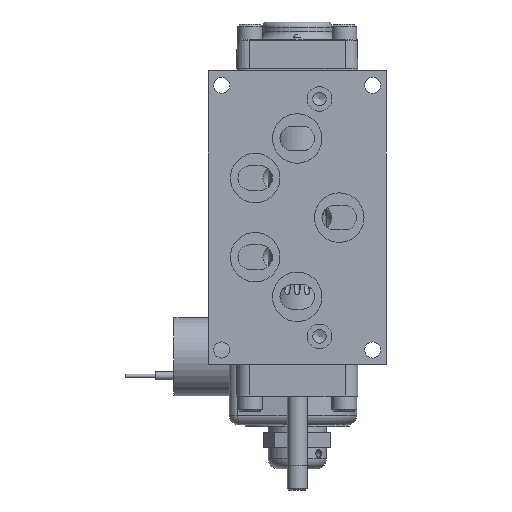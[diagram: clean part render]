
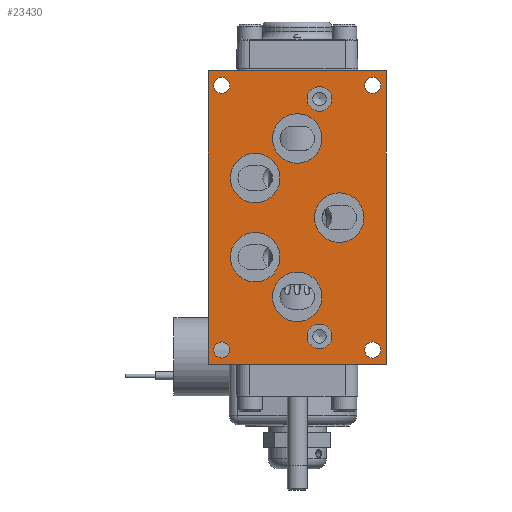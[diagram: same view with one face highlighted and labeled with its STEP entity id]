
A CAD part, front view. The second image highlights one B-rep face of the part: STEP entity #23430.
In plain terms, the highlighted planar face has unit normal (0, -1, 0).
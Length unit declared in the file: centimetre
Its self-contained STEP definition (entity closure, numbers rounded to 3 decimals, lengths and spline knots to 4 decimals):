
#2994=LINE('',#41168,#4510);
#2998=LINE('',#41177,#4514);
#3000=LINE('',#41180,#4516);
#3001=LINE('',#41181,#4517);
#4510=VECTOR('',#31062,1.);
#4514=VECTOR('',#31072,1.);
#4516=VECTOR('',#31076,1.);
#4517=VECTOR('',#31077,1.);
#5777=FACE_BOUND('',#8286,.T.);
#5778=FACE_BOUND('',#8287,.T.);
#5779=FACE_BOUND('',#8288,.T.);
#5780=FACE_BOUND('',#8289,.T.);
#5781=FACE_BOUND('',#8290,.T.);
#5782=FACE_BOUND('',#8291,.T.);
#5783=FACE_BOUND('',#8292,.T.);
#5784=FACE_BOUND('',#8293,.T.);
#5785=FACE_BOUND('',#8294,.T.);
#5786=FACE_BOUND('',#8295,.T.);
#5787=FACE_BOUND('',#8296,.T.);
#6799=FACE_OUTER_BOUND('',#8285,.T.);
#8285=EDGE_LOOP('',(#19927,#19928,#19929,#19930));
#8286=EDGE_LOOP('',(#19931,#19932));
#8287=EDGE_LOOP('',(#19933,#19934));
#8288=EDGE_LOOP('',(#19935,#19936));
#8289=EDGE_LOOP('',(#19937,#19938));
#8290=EDGE_LOOP('',(#19939,#19940));
#8291=EDGE_LOOP('',(#19941,#19942));
#8292=EDGE_LOOP('',(#19943,#19944));
#8293=EDGE_LOOP('',(#19945));
#8294=EDGE_LOOP('',(#19946));
#8295=EDGE_LOOP('',(#19947));
#8296=EDGE_LOOP('',(#19948));
#9517=CIRCLE('',#25499,0.3962);
#9518=CIRCLE('',#25500,0.3962);
#9524=CIRCLE('',#25510,0.3962);
#9525=CIRCLE('',#25511,0.3962);
#9528=CIRCLE('',#25517,0.7938);
#9529=CIRCLE('',#25518,0.7938);
#9532=CIRCLE('',#25523,0.7938);
#9533=CIRCLE('',#25524,0.7938);
#9536=CIRCLE('',#25529,0.7938);
#9537=CIRCLE('',#25530,0.7938);
#9540=CIRCLE('',#25535,0.7938);
#9541=CIRCLE('',#25536,0.7938);
#9544=CIRCLE('',#25541,0.7938);
#9545=CIRCLE('',#25542,0.7938);
#9562=CIRCLE('',#25567,0.258);
#9566=CIRCLE('',#25573,0.258);
#9570=CIRCLE('',#25579,0.258);
#9574=CIRCLE('',#25585,0.258);
#11464=VERTEX_POINT('',#40944);
#11465=VERTEX_POINT('',#40945);
#11472=VERTEX_POINT('',#40966);
#11473=VERTEX_POINT('',#40967);
#11476=VERTEX_POINT('',#40979);
#11477=VERTEX_POINT('',#40980);
#11480=VERTEX_POINT('',#40990);
#11481=VERTEX_POINT('',#40991);
#11484=VERTEX_POINT('',#41001);
#11485=VERTEX_POINT('',#41002);
#11488=VERTEX_POINT('',#41012);
#11489=VERTEX_POINT('',#41013);
#11492=VERTEX_POINT('',#41023);
#11493=VERTEX_POINT('',#41024);
#11510=VERTEX_POINT('',#41076);
#11516=VERTEX_POINT('',#41091);
#11522=VERTEX_POINT('',#41106);
#11528=VERTEX_POINT('',#41121);
#11541=VERTEX_POINT('',#41164);
#11542=VERTEX_POINT('',#41166);
#11543=VERTEX_POINT('',#41174);
#11544=VERTEX_POINT('',#41176);
#14352=EDGE_CURVE('',#11464,#11465,#9517,.T.);
#14353=EDGE_CURVE('',#11465,#11464,#9518,.T.);
#14362=EDGE_CURVE('',#11472,#11473,#9524,.T.);
#14363=EDGE_CURVE('',#11473,#11472,#9525,.T.);
#14368=EDGE_CURVE('',#11476,#11477,#9528,.T.);
#14369=EDGE_CURVE('',#11477,#11476,#9529,.T.);
#14373=EDGE_CURVE('',#11480,#11481,#9532,.T.);
#14374=EDGE_CURVE('',#11481,#11480,#9533,.T.);
#14378=EDGE_CURVE('',#11484,#11485,#9536,.T.);
#14379=EDGE_CURVE('',#11485,#11484,#9537,.T.);
#14383=EDGE_CURVE('',#11488,#11489,#9540,.T.);
#14384=EDGE_CURVE('',#11489,#11488,#9541,.T.);
#14388=EDGE_CURVE('',#11492,#11493,#9544,.T.);
#14389=EDGE_CURVE('',#11493,#11492,#9545,.T.);
#14416=EDGE_CURVE('',#11510,#11510,#9562,.T.);
#14423=EDGE_CURVE('',#11516,#11516,#9566,.T.);
#14430=EDGE_CURVE('',#11522,#11522,#9570,.T.);
#14437=EDGE_CURVE('',#11528,#11528,#9574,.T.);
#14460=EDGE_CURVE('',#11541,#11542,#2994,.T.);
#14464=EDGE_CURVE('',#11544,#11543,#2998,.T.);
#14466=EDGE_CURVE('',#11543,#11541,#3000,.T.);
#14467=EDGE_CURVE('',#11542,#11544,#3001,.T.);
#19927=ORIENTED_EDGE('',*,*,#14466,.T.);
#19928=ORIENTED_EDGE('',*,*,#14460,.T.);
#19929=ORIENTED_EDGE('',*,*,#14467,.T.);
#19930=ORIENTED_EDGE('',*,*,#14464,.T.);
#19931=ORIENTED_EDGE('',*,*,#14352,.T.);
#19932=ORIENTED_EDGE('',*,*,#14353,.T.);
#19933=ORIENTED_EDGE('',*,*,#14362,.T.);
#19934=ORIENTED_EDGE('',*,*,#14363,.T.);
#19935=ORIENTED_EDGE('',*,*,#14368,.T.);
#19936=ORIENTED_EDGE('',*,*,#14369,.T.);
#19937=ORIENTED_EDGE('',*,*,#14373,.T.);
#19938=ORIENTED_EDGE('',*,*,#14374,.T.);
#19939=ORIENTED_EDGE('',*,*,#14378,.T.);
#19940=ORIENTED_EDGE('',*,*,#14379,.T.);
#19941=ORIENTED_EDGE('',*,*,#14383,.T.);
#19942=ORIENTED_EDGE('',*,*,#14384,.T.);
#19943=ORIENTED_EDGE('',*,*,#14388,.T.);
#19944=ORIENTED_EDGE('',*,*,#14389,.T.);
#19945=ORIENTED_EDGE('',*,*,#14416,.T.);
#19946=ORIENTED_EDGE('',*,*,#14423,.T.);
#19947=ORIENTED_EDGE('',*,*,#14430,.T.);
#19948=ORIENTED_EDGE('',*,*,#14437,.T.);
#22373=PLANE('',#25597);
#23430=ADVANCED_FACE('',(#6799,#5777,#5778,#5779,#5780,#5781,#5782,#5783,
#5784,#5785,#5786,#5787),#22373,.T.);
#25499=AXIS2_PLACEMENT_3D('',#40946,#30822,#30823);
#25500=AXIS2_PLACEMENT_3D('',#40947,#30824,#30825);
#25510=AXIS2_PLACEMENT_3D('',#40968,#30847,#30848);
#25511=AXIS2_PLACEMENT_3D('',#40969,#30849,#30850);
#25517=AXIS2_PLACEMENT_3D('',#40981,#30863,#30864);
#25518=AXIS2_PLACEMENT_3D('',#40982,#30865,#30866);
#25523=AXIS2_PLACEMENT_3D('',#40992,#30876,#30877);
#25524=AXIS2_PLACEMENT_3D('',#40993,#30878,#30879);
#25529=AXIS2_PLACEMENT_3D('',#41003,#30889,#30890);
#25530=AXIS2_PLACEMENT_3D('',#41004,#30891,#30892);
#25535=AXIS2_PLACEMENT_3D('',#41014,#30902,#30903);
#25536=AXIS2_PLACEMENT_3D('',#41015,#30904,#30905);
#25541=AXIS2_PLACEMENT_3D('',#41025,#30915,#30916);
#25542=AXIS2_PLACEMENT_3D('',#41026,#30917,#30918);
#25567=AXIS2_PLACEMENT_3D('',#41078,#30977,#30978);
#25573=AXIS2_PLACEMENT_3D('',#41093,#30992,#30993);
#25579=AXIS2_PLACEMENT_3D('',#41108,#31007,#31008);
#25585=AXIS2_PLACEMENT_3D('',#41123,#31022,#31023);
#25597=AXIS2_PLACEMENT_3D('',#41179,#31074,#31075);
#30822=DIRECTION('center_axis',(0.,1.,0.));
#30823=DIRECTION('ref_axis',(1.,0.,0.));
#30824=DIRECTION('center_axis',(0.,1.,0.));
#30825=DIRECTION('ref_axis',(1.,0.,0.));
#30847=DIRECTION('center_axis',(0.,1.,0.));
#30848=DIRECTION('ref_axis',(1.,0.,0.));
#30849=DIRECTION('center_axis',(0.,1.,0.));
#30850=DIRECTION('ref_axis',(1.,0.,0.));
#30863=DIRECTION('center_axis',(0.,1.,0.));
#30864=DIRECTION('ref_axis',(1.,0.,0.));
#30865=DIRECTION('center_axis',(0.,1.,0.));
#30866=DIRECTION('ref_axis',(1.,0.,0.));
#30876=DIRECTION('center_axis',(0.,1.,0.));
#30877=DIRECTION('ref_axis',(1.,0.,0.));
#30878=DIRECTION('center_axis',(0.,1.,0.));
#30879=DIRECTION('ref_axis',(1.,0.,0.));
#30889=DIRECTION('center_axis',(0.,1.,0.));
#30890=DIRECTION('ref_axis',(1.,0.,0.));
#30891=DIRECTION('center_axis',(0.,1.,0.));
#30892=DIRECTION('ref_axis',(1.,0.,0.));
#30902=DIRECTION('center_axis',(0.,1.,0.));
#30903=DIRECTION('ref_axis',(1.,0.,0.));
#30904=DIRECTION('center_axis',(0.,1.,0.));
#30905=DIRECTION('ref_axis',(1.,0.,0.));
#30915=DIRECTION('center_axis',(0.,1.,0.));
#30916=DIRECTION('ref_axis',(1.,0.,0.));
#30917=DIRECTION('center_axis',(0.,1.,0.));
#30918=DIRECTION('ref_axis',(1.,0.,0.));
#30977=DIRECTION('center_axis',(0.,1.,0.));
#30978=DIRECTION('ref_axis',(1.,0.,0.));
#30992=DIRECTION('center_axis',(0.,1.,0.));
#30993=DIRECTION('ref_axis',(1.,0.,0.));
#31007=DIRECTION('center_axis',(0.,1.,0.));
#31008=DIRECTION('ref_axis',(1.,0.,0.));
#31022=DIRECTION('center_axis',(0.,1.,0.));
#31023=DIRECTION('ref_axis',(1.,0.,0.));
#31062=DIRECTION('',(0.,0.,-1.));
#31072=DIRECTION('',(0.,0.,1.));
#31074=DIRECTION('center_axis',(0.,-1.,0.));
#31075=DIRECTION('ref_axis',(0.,0.,-1.));
#31076=DIRECTION('',(-1.,0.,0.));
#31077=DIRECTION('',(1.,0.,0.));
#40944=CARTESIAN_POINT('',(1.11,-1.6358,-3.81));
#40945=CARTESIAN_POINT('',(0.3175,-1.6358,-3.81));
#40946=CARTESIAN_POINT('Origin',(0.7137,-1.6358,-3.81));
#40947=CARTESIAN_POINT('Origin',(0.7137,-1.6358,-3.81));
#40966=CARTESIAN_POINT('',(1.11,-1.6358,3.81));
#40967=CARTESIAN_POINT('',(0.3175,-1.6358,3.81));
#40968=CARTESIAN_POINT('Origin',(0.7137,-1.6358,3.81));
#40969=CARTESIAN_POINT('Origin',(0.7137,-1.6358,3.81));
#40979=CARTESIAN_POINT('',(2.1425,-1.6358,0.));
#40980=CARTESIAN_POINT('',(0.555,-1.6358,0.));
#40981=CARTESIAN_POINT('Origin',(1.3487,-1.6358,0.));
#40982=CARTESIAN_POINT('Origin',(1.3487,-1.6358,0.));
#40990=CARTESIAN_POINT('',(0.7938,-1.6358,-2.54));
#40991=CARTESIAN_POINT('',(-0.7938,-1.6358,-2.54));
#40992=CARTESIAN_POINT('Origin',(0.,-1.6358,-2.54));
#40993=CARTESIAN_POINT('Origin',(0.,-1.6358,-2.54));
#41001=CARTESIAN_POINT('',(0.7938,-1.6358,2.54));
#41002=CARTESIAN_POINT('',(-0.7938,-1.6358,2.54));
#41003=CARTESIAN_POINT('Origin',(0.,-1.6358,2.54));
#41004=CARTESIAN_POINT('Origin',(0.,-1.6358,2.54));
#41012=CARTESIAN_POINT('',(-0.555,-1.6358,-1.27));
#41013=CARTESIAN_POINT('',(-2.1425,-1.6358,-1.27));
#41014=CARTESIAN_POINT('Origin',(-1.3487,-1.6358,-1.27));
#41015=CARTESIAN_POINT('Origin',(-1.3487,-1.6358,-1.27));
#41023=CARTESIAN_POINT('',(-0.555,-1.6358,1.27));
#41024=CARTESIAN_POINT('',(-2.1425,-1.6358,1.27));
#41025=CARTESIAN_POINT('Origin',(-1.3487,-1.6358,1.27));
#41026=CARTESIAN_POINT('Origin',(-1.3487,-1.6358,1.27));
#41076=CARTESIAN_POINT('',(-2.6786,-1.6358,4.2469));
#41078=CARTESIAN_POINT('Origin',(-2.4206,-1.6358,4.2469));
#41091=CARTESIAN_POINT('',(2.1627,-1.6358,4.2469));
#41093=CARTESIAN_POINT('Origin',(2.4206,-1.6358,4.2469));
#41106=CARTESIAN_POINT('',(2.1627,-1.6358,-4.2469));
#41108=CARTESIAN_POINT('Origin',(2.4206,-1.6358,-4.2469));
#41121=CARTESIAN_POINT('',(-2.6786,-1.6358,-4.2469));
#41123=CARTESIAN_POINT('Origin',(-2.4206,-1.6358,-4.2469));
#41164=CARTESIAN_POINT('',(-2.8575,-1.6358,4.7104));
#41166=CARTESIAN_POINT('',(-2.8575,-1.6358,-4.7104));
#41168=CARTESIAN_POINT('',(-2.8575,-1.6358,0.));
#41174=CARTESIAN_POINT('',(2.8575,-1.6358,4.7104));
#41176=CARTESIAN_POINT('',(2.8575,-1.6358,-4.7104));
#41177=CARTESIAN_POINT('',(2.8575,-1.6358,0.));
#41179=CARTESIAN_POINT('Origin',(2.8575,-1.6358,0.));
#41180=CARTESIAN_POINT('',(-2.8575,-1.6358,4.7104));
#41181=CARTESIAN_POINT('',(-2.8575,-1.6358,-4.7104));
